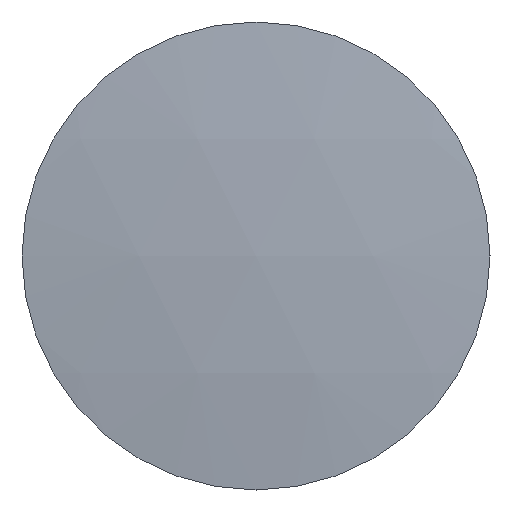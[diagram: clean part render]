
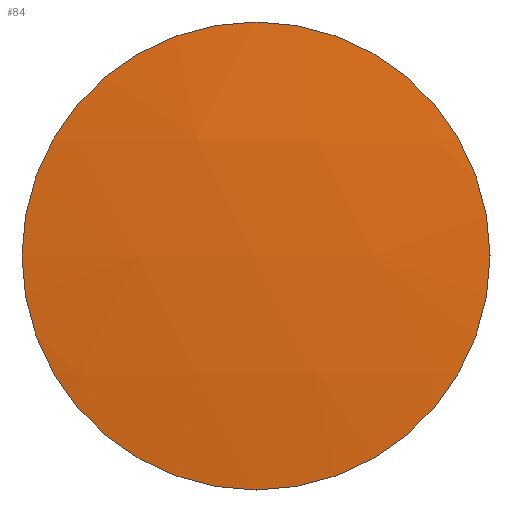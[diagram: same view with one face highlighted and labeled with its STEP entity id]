
A CAD part, front view. The second image highlights one B-rep face of the part: STEP entity #84.
In plain terms, the highlighted spherical face has radius 20.76 mm.
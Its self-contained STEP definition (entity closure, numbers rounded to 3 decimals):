
#68=CARTESIAN_POINT('',(0.0,19.36,0.0));
#69=DIRECTION('',(0.0,0.0,1.0));
#70=DIRECTION('',(1.0,0.0,0.0));
#71=AXIS2_PLACEMENT_3D('',#68,#69,#70);
#72=SPHERICAL_SURFACE('',#71,20.76);
#73=CARTESIAN_POINT('',(-2.5,-1.249,0.0));
#74=VERTEX_POINT('',#73);
#75=CARTESIAN_POINT('',(0.0,-1.249,0.0));
#76=DIRECTION('',(0.0,1.0,0.0));
#77=DIRECTION('',(-1.0,0.0,0.0));
#78=AXIS2_PLACEMENT_3D('',#75,#76,#77);
#79=CIRCLE('',#78,2.5);
#80=EDGE_CURVE('',#74,#74,#79,.T.);
#81=ORIENTED_EDGE('',*,*,#80,.F.);
#82=EDGE_LOOP('',(#81));
#83=FACE_OUTER_BOUND('',#82,.T.);
#84=ADVANCED_FACE('',(#83),#72,.T.);
